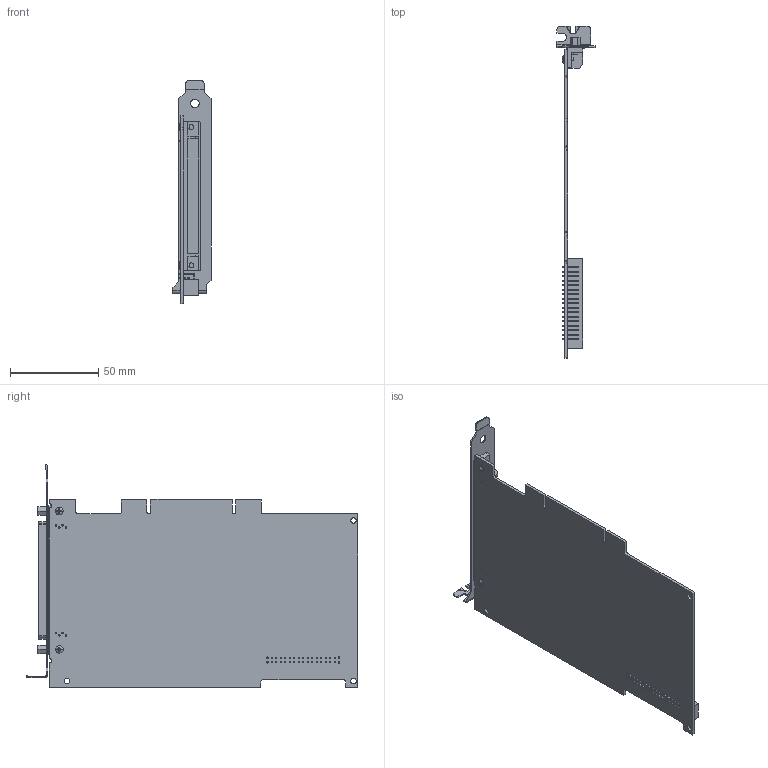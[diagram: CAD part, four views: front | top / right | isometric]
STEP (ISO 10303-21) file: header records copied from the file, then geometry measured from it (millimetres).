
FILE_DESCRIPTION((''),'2;1');
FILE_NAME('CU_PCI-6624','2011-08-18T',('dkendric'),(''),'PRO/ENGINEER BY PARAMETRIC TECHNOLOGY CORPORATION, 2010230','PRO/ENGINEER BY PARAMETRIC TECHNOLOGY CORPORATION, 2010230','');
FILE_SCHEMA(('CONFIG_CONTROL_DESIGN'));
Length unit declared in the file: inch
Products named in the file (1): CU_PCI-6624
Bounding box: 21.59 x 187.77 x 126.21 mm (x, y, z)
Volume: 37755.6 mm3; surface area: 45684 mm2
Topology: 1 solids, 1 shells, 883 faces, 2405 edges, 1538 vertices
Faces by surface type: plane 667, cylinder 156, bspline 44, cone 8, torus 4, sphere 4
Entity records: 28332 total; most frequent: CARTESIAN_POINT 5960, ORIENTED_EDGE 4722, DIRECTION 4316, EDGE_CURVE 2361, VECTOR 1932, LINE 1932, VERTEX_POINT 1576, AXIS2_PLACEMENT_3D 1192
